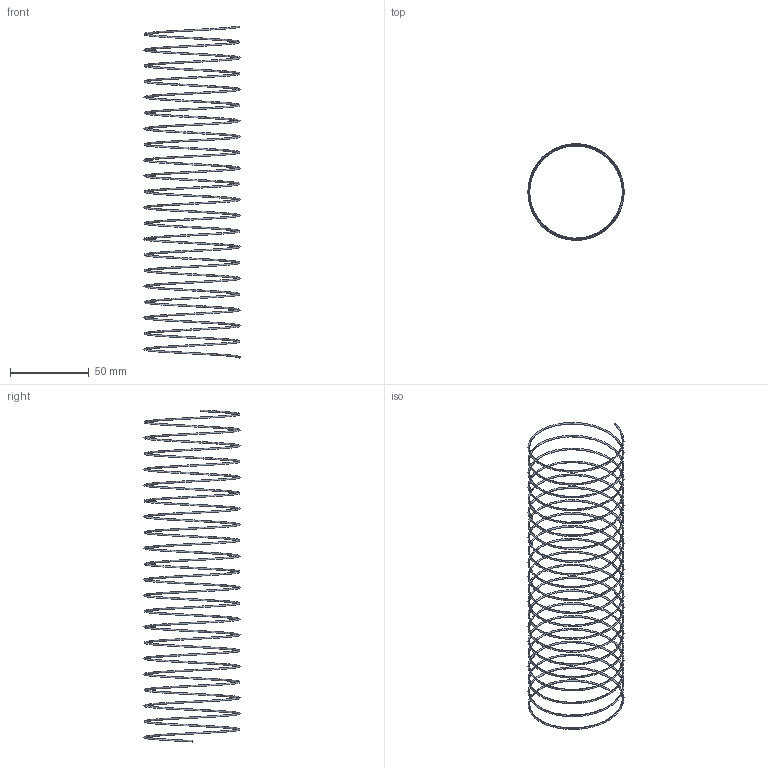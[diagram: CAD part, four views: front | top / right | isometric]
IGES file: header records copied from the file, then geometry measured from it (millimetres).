
Start section: Missler Software BP 521, 31674 Labege Cedex, France Tel   : +33 (0)5 61 00 03 00 Fax   : +33 (0)5 61 00 03 03 Email : sup.topsolid@topsolid.com
Global section: file name: D:\Cuma\25 06 2009\D60.01\D60.01_60\D60.01_60210.igs; native system: TopSolid v605250 Missler Software; preprocessor: IGES preprocessor v100000; date: 030203.172412; units: millimetre
Bounding box: 61 x 61 x 210.72 mm (x, y, z)
Surface area: 12369.3 mm2 (no closed solid volume)
Topology: 0 solids, 0 shells, 3 faces, 27 edges, 26 vertices
Faces by surface type: bspline 3
